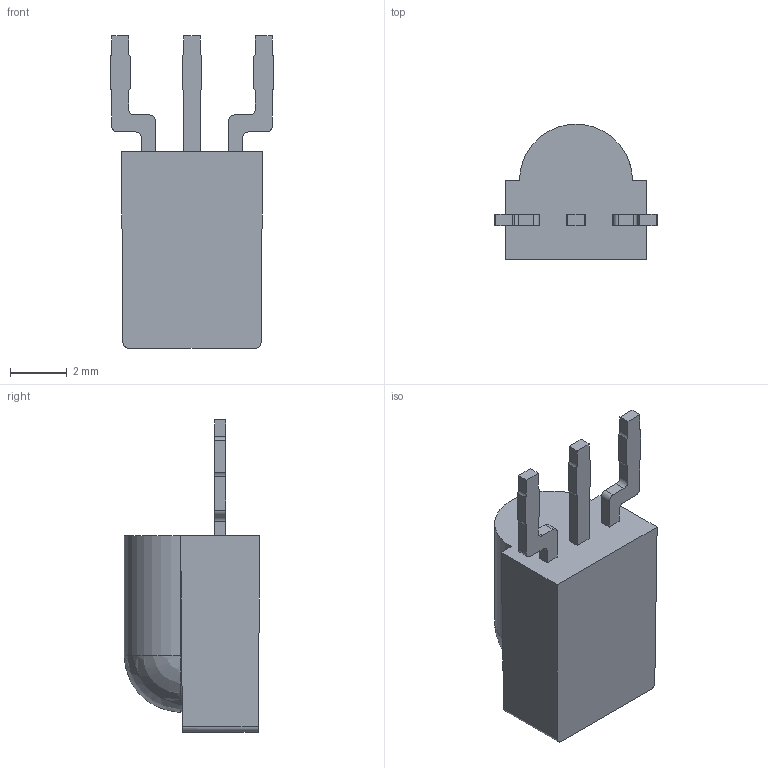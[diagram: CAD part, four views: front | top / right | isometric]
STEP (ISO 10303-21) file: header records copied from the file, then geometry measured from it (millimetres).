
FILE_DESCRIPTION((''),'2;1');
FILE_NAME('C:\temp\Hauschildt\3D-files\Minicast\Minicast_DD.stp','2014-05-22T14:05:48',('gobenland'),(''),'Autodesk Inventor 2013','Autodesk Inventor 2013','');
FILE_SCHEMA(('AUTOMOTIVE_DESIGN { 1 0 10303 214 1 1 1 1 }'));
Length unit declared in the file: millimetre
Products named in the file (3): GO-100187.18; GO-100187; GO-100187.018
Assembly tree (2 placements, depth 2):
  GO-100187.18
    GO-100187
    GO-100187.018
Bounding box: 5.78 x 4.8 x 11.05 mm (x, y, z)
Volume: 133.2 mm3; surface area: 186.1 mm2
Topology: 4 solids, 4 shells, 71 faces, 187 edges, 122 vertices
Faces by surface type: plane 46, cylinder 24, sphere 1
Entity records: 2268 total; most frequent: DIRECTION 385, CARTESIAN_POINT 383, ORIENTED_EDGE 370, EDGE_CURVE 185, VECTOR 137, LINE 137, AXIS2_PLACEMENT_3D 124, VERTEX_POINT 122
